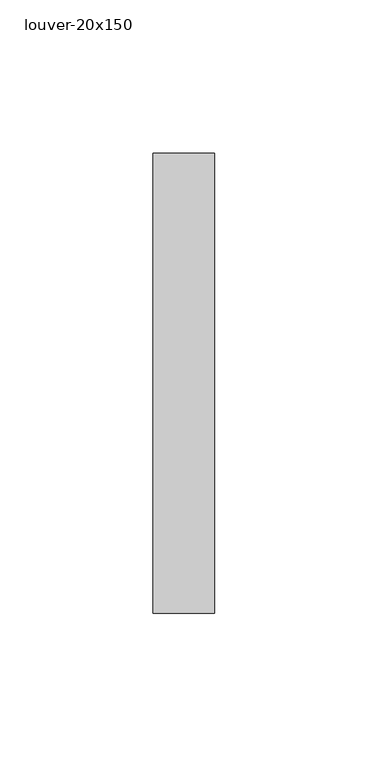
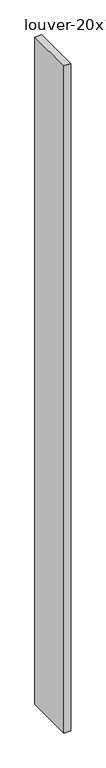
"""IFC4 building model written with IfcOpenShell, lengths in millimetres: member geometry, 長方形マリオン : louver-20x150."""

from ifc_helpers import new_model, si_unit, frame, origin, place, context, project, spatial, polyline, outline, extrude, source, transform, mapped, element, save


def louver_20x150_0c83da87(model_context):
    return source(origin(), model_context, "Body", "SweptSolid", [
        extrude(outline(polyline([(10.0, 75.0), (10.0, -75.0), (-10.0, -75.0), (-10.0, 75.0), (10.0, 75.0)])), frame((0.0, 0.0, -2104.3695652), z_axis=(0.0, 0.0, 1.0), x_axis=(1.0, 0.0, 0.0)), (0.0, 0.0, 1.0), 2104.3695652),
    ])


if __name__ == "__main__":
    model = new_model("IFC4")
    model_context = context("Model", 3, world=origin())
    ifc_project = project(units=[si_unit("LENGTHUNIT", "METRE", prefix="MILLI")], contexts=[model_context])
    site = spatial("IfcSite", under=ifc_project)
    building = spatial("IfcBuilding", under=site)
    placement = place(None, origin())
    louver_20x150_shape = louver_20x150_0c83da87(model_context)
    element("IfcMember", 1, ObjectType="長方形マリオン : louver-20x150", at=placement, inside=building, context=model_context, shape_type="MappedRepresentation", body=[
        mapped(louver_20x150_shape, transform((0.0, 0.0, 0.0), x_axis=(1.0, 0.0, 0.0), y_axis=(0.0, 1.0, 0.0), z_axis=(0.0, 0.0, 1.0))),
    ])
    save(model, "model.ifc")
